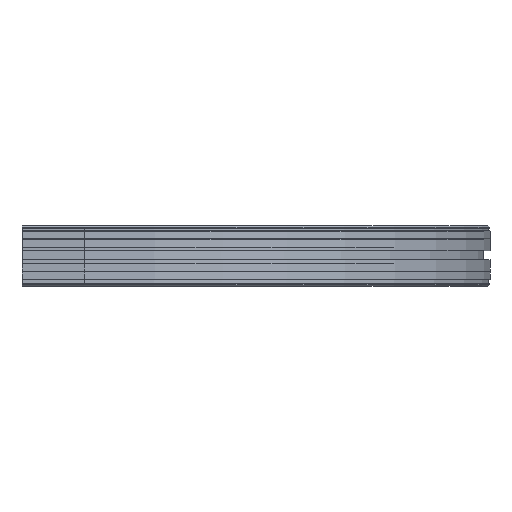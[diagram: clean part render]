
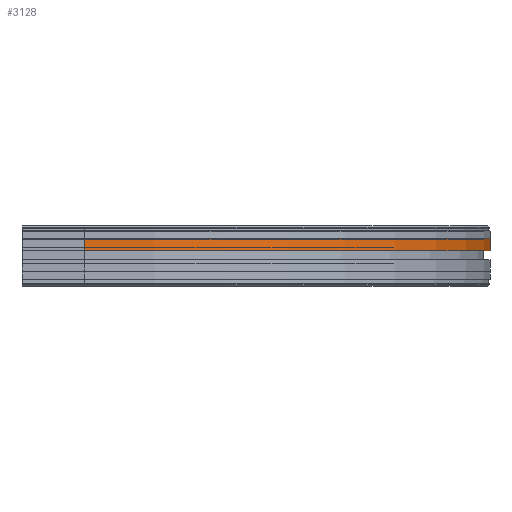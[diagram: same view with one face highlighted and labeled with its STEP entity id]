
A CAD part, front view. The second image highlights one B-rep face of the part: STEP entity #3128.
In plain terms, the highlighted cylindrical face has radius 521 mm (diameter 1042 mm), a partial arc.
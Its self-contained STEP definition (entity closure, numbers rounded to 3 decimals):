
#1660=CARTESIAN_POINT('',(80.,-1010.,-17.5));
#1661=VERTEX_POINT('',#1660);
#1691=CARTESIAN_POINT('',(80.,-1010.,-32.5));
#1692=VERTEX_POINT('',#1691);
#1699=CARTESIAN_POINT('',(80.0,-1010.,-17.5));
#1700=DIRECTION('',(0.0,0.0,-1.0));
#1701=VECTOR('',#1700,15.);
#1702=LINE('',#1699,#1701);
#1703=EDGE_CURVE('',#1661,#1692,#1702,.T.);
#3085=CARTESIAN_POINT('',(80.0,32.0,-17.5));
#3086=VERTEX_POINT('',#3085);
#3087=CARTESIAN_POINT('',(80.,-489.,-17.5));
#3088=DIRECTION('',(0.0,0.0,-1.0));
#3089=DIRECTION('',(0.0,1.0,0.0));
#3090=AXIS2_PLACEMENT_3D('',#3087,#3088,#3089);
#3091=CIRCLE('',#3090,521.);
#3092=EDGE_CURVE('',#3086,#1661,#3091,.T.);
#3104=CARTESIAN_POINT('',(80.,-489.,-25.));
#3105=DIRECTION('',(0.0,0.0,-1.0));
#3106=DIRECTION('',(0.0,1.0,0.0));
#3107=AXIS2_PLACEMENT_3D('',#3104,#3105,#3106);
#3108=CYLINDRICAL_SURFACE('',#3107,521.);
#3109=ORIENTED_EDGE('',*,*,#1703,.T.);
#3110=CARTESIAN_POINT('',(80.0,32.0,-32.5));
#3111=VERTEX_POINT('',#3110);
#3112=CARTESIAN_POINT('',(80.,-489.,-32.5));
#3113=DIRECTION('',(0.0,0.0,-1.0));
#3114=DIRECTION('',(0.0,1.0,0.0));
#3115=AXIS2_PLACEMENT_3D('',#3112,#3113,#3114);
#3116=CIRCLE('',#3115,521.);
#3117=EDGE_CURVE('',#3111,#1692,#3116,.T.);
#3118=ORIENTED_EDGE('',*,*,#3117,.F.);
#3119=CARTESIAN_POINT('',(80.0,32.0,-17.5));
#3120=DIRECTION('',(0.0,0.0,-1.0));
#3121=VECTOR('',#3120,15.);
#3122=LINE('',#3119,#3121);
#3123=EDGE_CURVE('',#3086,#3111,#3122,.T.);
#3124=ORIENTED_EDGE('',*,*,#3123,.F.);
#3125=ORIENTED_EDGE('',*,*,#3092,.T.);
#3126=EDGE_LOOP('',(#3109,#3118,#3124,#3125));
#3127=FACE_OUTER_BOUND('',#3126,.T.);
#3128=ADVANCED_FACE('',(#3127),#3108,.T.);
